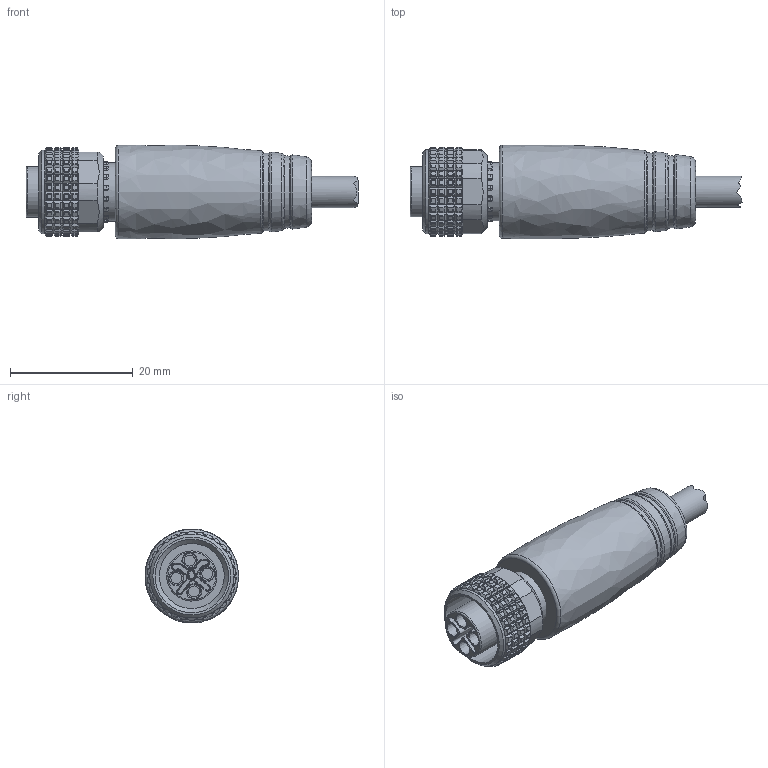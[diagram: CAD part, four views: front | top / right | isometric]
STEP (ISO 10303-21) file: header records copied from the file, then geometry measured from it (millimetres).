
FILE_DESCRIPTION((''),'2;1');
FILE_NAME('C:\Users\enrico\Desktop\Ale\Sito Web Mintec\AUTOMAZIONE_2020\FOTO & STEP chiave S Power M12\singola testa\Ch S Femmina.stp','2020-10-29T09:28:44',('Tecnico2'),(''),'Autodesk Inventor 2012','Autodesk Inventor 2012','');
FILE_SCHEMA(('AUTOMOTIVE_DESIGN { 1 0 10303 214 1 1 1 1 }'));
Length unit declared in the file: millimetre
Products named in the file (4): Assieme1; corpo chiave S FE; femmina moficata 1; ghiera M12_FE_NON TECNICO_
Assembly tree (3 placements, depth 2):
  Assieme1
    corpo chiave S FE
    femmina moficata 1
    ghiera M12_FE_NON TECNICO_
Bounding box: 54.18 x 15.33 x 15.33 mm (x, y, z)
Volume: 6485.2 mm3; surface area: 4618.6 mm2
Topology: 3 solids, 3 shells, 2441 faces, 5585 edges, 3168 vertices
Faces by surface type: cylinder 1037, plane 854, sphere 501, cone 18, bspline 16, torus 15
Full cylindrical faces by diameter (mm): 1.8 x4, 2.15 x4, 2.6 x4, 5.1 x1, 8 x1, 8.2 x1, 9.5 x1, 10.6 x1, 12 x1, 13.7 x1
Entity records: 74098 total; most frequent: CARTESIAN_POINT 18216, DIRECTION 12789, ORIENTED_EDGE 11034, EDGE_CURVE 5517, AXIS2_PLACEMENT_3D 4936, VERTEX_POINT 3154, VECTOR 2917, LINE 2917
